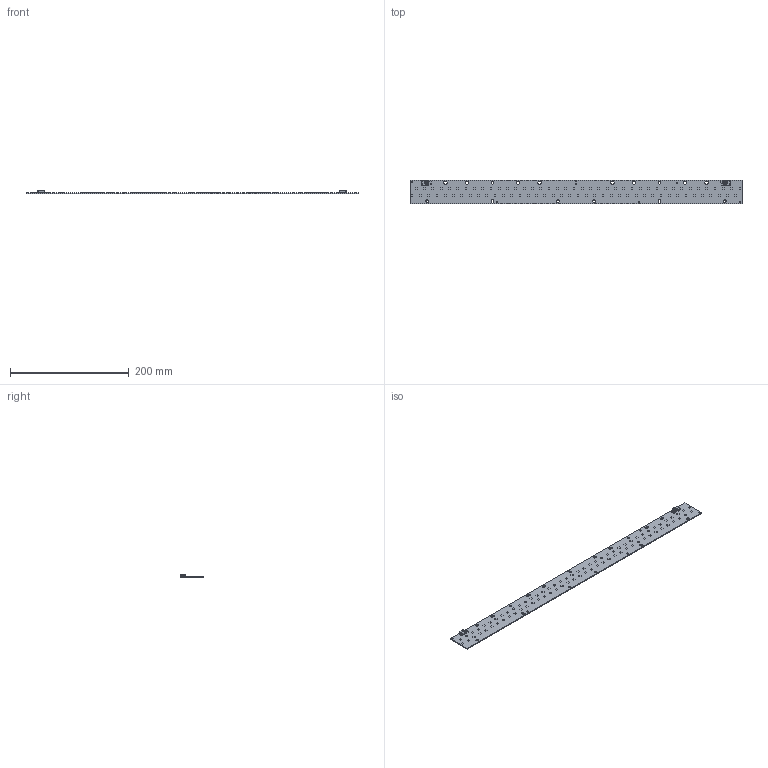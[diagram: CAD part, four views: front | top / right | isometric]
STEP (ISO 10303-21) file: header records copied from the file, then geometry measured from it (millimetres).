
FILE_DESCRIPTION((''),'2;1');
FILE_NAME('QF80SG220_06092021_10-01-16_ASM','2021-06-09T',('SYSTEM'),(''),'PRO/ENGINEER BY PARAMETRIC TECHNOLOGY CORPORATION, 2009360','PRO/ENGINEER BY PARAMETRIC TECHNOLOGY CORPORATION, 2009360','');
FILE_SCHEMA(('AUTOMOTIVE_DESIGN_CC2 { 1 2 10303 214 -1 1 5 2 }'));
Products named in the file (8): QF80SG220_06092021_10-01-16; 3030_LED; TC_R1MM; WAGO_2PIN; FIDUCIAL_R0_5MM; MINUS; PLUS; QF80SG220_06092021_10-01-16_ASM
Assembly tree (94 placements, depth 2):
  QF80SG220_06092021_10-01-16_ASM
    QF80SG220_06092021_10-01-16
    3030_LED  x80
    TC_R1MM
    WAGO_2PIN  x2
    FIDUCIAL_R0_5MM  x6
    MINUS  x2
    PLUS  x2
Bounding box: 558.8 x 39.98 x 6.34 mm (x, y, z)
Volume: 36232.7 mm3; surface area: 49570.2 mm2
Topology: 94 solids, 94 shells, 1194 faces, 2990 edges, 1988 vertices
Faces by surface type: plane 1066, cylinder 120, sphere 8
Entity records: 20988 total; most frequent: CARTESIAN_POINT 3077, ORIENTED_EDGE 2838, DIRECTION 2733, EDGE_CURVE 1419, VECTOR 1249, LINE 1249, PRESENTATION_STYLE_ASSIGNMENT 1072, STYLED_ITEM 1072
